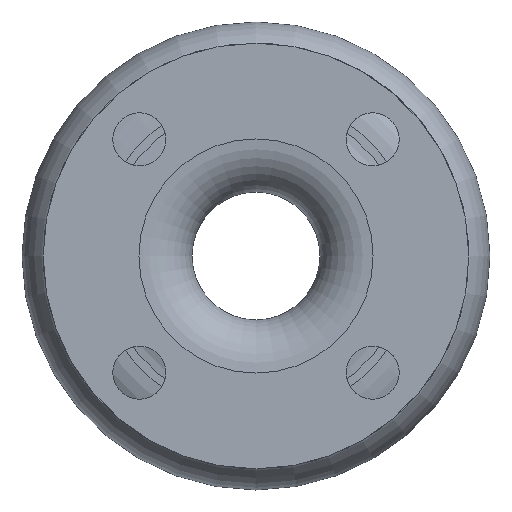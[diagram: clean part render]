
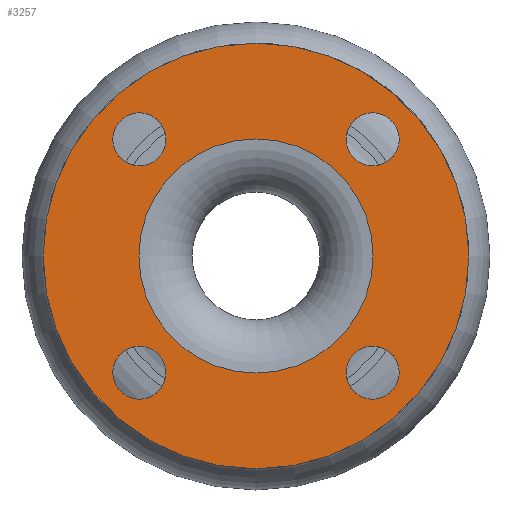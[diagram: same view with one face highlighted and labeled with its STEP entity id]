
A CAD part, left-side view. The second image highlights one B-rep face of the part: STEP entity #3257.
In plain terms, the highlighted planar face has unit normal (-1, 0, 0).
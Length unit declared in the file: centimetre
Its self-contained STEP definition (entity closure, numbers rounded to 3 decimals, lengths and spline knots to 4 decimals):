
#168=FACE_BOUND('',#575,.T.);
#169=FACE_BOUND('',#576,.T.);
#170=FACE_BOUND('',#577,.T.);
#171=FACE_BOUND('',#578,.T.);
#172=FACE_BOUND('',#579,.T.);
#173=FACE_BOUND('',#580,.T.);
#575=EDGE_LOOP('',(#2475));
#576=EDGE_LOOP('',(#2476));
#577=EDGE_LOOP('',(#2477));
#578=EDGE_LOOP('',(#2478));
#579=EDGE_LOOP('',(#2479));
#580=EDGE_LOOP('',(#2480));
#1152=CIRCLE('',#3541,0.7938);
#1154=CIRCLE('',#3544,0.7938);
#1156=CIRCLE('',#3547,0.7938);
#1158=CIRCLE('',#3550,0.7938);
#1178=CIRCLE('',#3585,3.4925);
#1179=CIRCLE('',#3587,6.35);
#1436=VERTEX_POINT('',#5351);
#1438=VERTEX_POINT('',#5356);
#1440=VERTEX_POINT('',#5361);
#1442=VERTEX_POINT('',#5366);
#1462=VERTEX_POINT('',#5421);
#1463=VERTEX_POINT('',#5424);
#1808=EDGE_CURVE('',#1436,#1436,#1152,.T.);
#1810=EDGE_CURVE('',#1438,#1438,#1154,.T.);
#1812=EDGE_CURVE('',#1440,#1440,#1156,.T.);
#1814=EDGE_CURVE('',#1442,#1442,#1158,.T.);
#1834=EDGE_CURVE('',#1462,#1462,#1178,.T.);
#1835=EDGE_CURVE('',#1463,#1463,#1179,.T.);
#2475=ORIENTED_EDGE('',*,*,#1808,.T.);
#2476=ORIENTED_EDGE('',*,*,#1810,.T.);
#2477=ORIENTED_EDGE('',*,*,#1812,.T.);
#2478=ORIENTED_EDGE('',*,*,#1814,.T.);
#2479=ORIENTED_EDGE('',*,*,#1835,.F.);
#2480=ORIENTED_EDGE('',*,*,#1834,.T.);
#2945=PLANE('',#3586);
#3257=ADVANCED_FACE('',(#168,#169,#170,#171,#172,#173),#2945,.T.);
#3541=AXIS2_PLACEMENT_3D('',#5352,#4253,#4254);
#3544=AXIS2_PLACEMENT_3D('',#5357,#4259,#4260);
#3547=AXIS2_PLACEMENT_3D('',#5362,#4265,#4266);
#3550=AXIS2_PLACEMENT_3D('',#5367,#4271,#4272);
#3585=AXIS2_PLACEMENT_3D('',#5422,#4341,#4342);
#3586=AXIS2_PLACEMENT_3D('',#5423,#4343,#4344);
#3587=AXIS2_PLACEMENT_3D('',#5425,#4345,#4346);
#4253=DIRECTION('center_axis',(1.,0.,0.));
#4254=DIRECTION('ref_axis',(0.,0.,1.));
#4259=DIRECTION('center_axis',(1.,0.,0.));
#4260=DIRECTION('ref_axis',(0.,1.,0.));
#4265=DIRECTION('center_axis',(1.,0.,0.));
#4266=DIRECTION('ref_axis',(0.,0.,-1.));
#4271=DIRECTION('center_axis',(1.,0.,0.));
#4272=DIRECTION('ref_axis',(0.,-1.,0.));
#4341=DIRECTION('center_axis',(1.,0.,0.));
#4342=DIRECTION('ref_axis',(0.,0.,-1.));
#4343=DIRECTION('center_axis',(-1.,0.,0.));
#4344=DIRECTION('ref_axis',(0.,0.,1.));
#4345=DIRECTION('center_axis',(1.,0.,0.));
#4346=DIRECTION('ref_axis',(0.,0.,-1.));
#5351=CARTESIAN_POINT('',(-12.7,-3.4798,-4.2736));
#5352=CARTESIAN_POINT('Origin',(-12.7,-3.4798,-3.4798));
#5356=CARTESIAN_POINT('',(-12.7,-4.2736,3.4798));
#5357=CARTESIAN_POINT('Origin',(-12.7,-3.4798,3.4798));
#5361=CARTESIAN_POINT('',(-12.7,3.4798,4.2736));
#5362=CARTESIAN_POINT('Origin',(-12.7,3.4798,3.4798));
#5366=CARTESIAN_POINT('',(-12.7,4.2736,-3.4798));
#5367=CARTESIAN_POINT('Origin',(-12.7,3.4798,-3.4798));
#5421=CARTESIAN_POINT('',(-12.7,3.4925,0.));
#5422=CARTESIAN_POINT('Origin',(-12.7,0.,0.));
#5423=CARTESIAN_POINT('Origin',(-12.7,6.35,0.));
#5424=CARTESIAN_POINT('',(-12.7,6.35,0.));
#5425=CARTESIAN_POINT('Origin',(-12.7,0.,0.));
